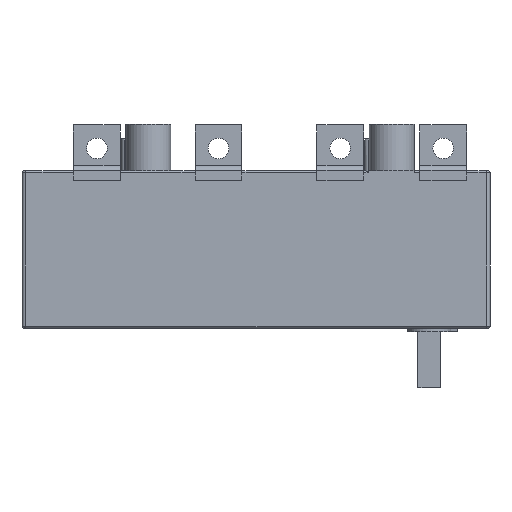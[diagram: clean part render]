
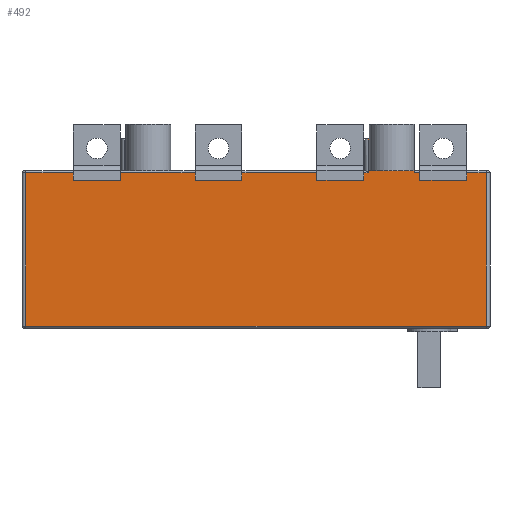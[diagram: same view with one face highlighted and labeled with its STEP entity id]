
A CAD part, front view. The second image highlights one B-rep face of the part: STEP entity #492.
In plain terms, the highlighted planar face has unit normal (0, -1, 0).
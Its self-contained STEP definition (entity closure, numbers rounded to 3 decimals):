
#182=FACE_OUTER_BOUND('',#1705,.T.);
#492=ADVANCED_FACE('',(#182),#604,.T.);
#604=PLANE('',#4333);
#605=LINE('',#5513,#933);
#612=LINE('',#5534,#940);
#614=LINE('',#5537,#942);
#632=LINE('',#5595,#960);
#639=LINE('',#5613,#967);
#641=LINE('',#5619,#969);
#659=LINE('',#5677,#987);
#666=LINE('',#5695,#994);
#668=LINE('',#5704,#996);
#686=LINE('',#5759,#1014);
#693=LINE('',#5777,#1021);
#695=LINE('',#5786,#1023);
#812=LINE('',#6227,#1140);
#820=LINE('',#6317,#1148);
#825=LINE('',#6334,#1153);
#826=LINE('',#6336,#1154);
#850=LINE('',#6462,#1178);
#857=LINE('',#6511,#1185);
#889=LINE('',#6611,#1217);
#895=LINE('',#6623,#1223);
#905=LINE('',#6643,#1233);
#924=LINE('',#6684,#1252);
#926=LINE('',#6688,#1254);
#929=LINE('',#6694,#1257);
#930=LINE('',#6696,#1258);
#932=LINE('',#6700,#1260);
#933=VECTOR('',#4342,1.);
#940=VECTOR('',#4359,1.);
#942=VECTOR('',#4363,1.);
#960=VECTOR('',#4419,1.);
#967=VECTOR('',#4434,1.);
#969=VECTOR('',#4440,1.);
#987=VECTOR('',#4496,1.);
#994=VECTOR('',#4511,1.);
#996=VECTOR('',#4519,1.);
#1014=VECTOR('',#4573,1.);
#1021=VECTOR('',#4588,1.);
#1023=VECTOR('',#4596,1.);
#1140=VECTOR('',#5035,1.);
#1148=VECTOR('',#5099,1.);
#1153=VECTOR('',#5122,1.);
#1154=VECTOR('',#5125,1.);
#1178=VECTOR('',#5265,1.);
#1185=VECTOR('',#5286,1.);
#1217=VECTOR('',#5386,1.);
#1223=VECTOR('',#5398,1.);
#1233=VECTOR('',#5420,1.);
#1252=VECTOR('',#5475,1.);
#1254=VECTOR('',#5481,1.);
#1257=VECTOR('',#5490,1.);
#1258=VECTOR('',#5493,1.);
#1260=VECTOR('',#5499,1.);
#1705=EDGE_LOOP('',(#2754,#2755,#2756,#2757,#2758,#2759,#2760,#2761,#2762,
#2763,#2764,#2765,#2766,#2767,#2768,#2769,#2770,#2771,#2772,#2773,#2774,
#2775,#2776,#2777,#2778,#2779));
#2754=ORIENTED_EDGE('',*,*,#3178,.F.);
#2755=ORIENTED_EDGE('',*,*,#3167,.T.);
#2756=ORIENTED_EDGE('',*,*,#3176,.F.);
#2757=ORIENTED_EDGE('',*,*,#3498,.T.);
#2758=ORIENTED_EDGE('',*,*,#3663,.T.);
#2759=ORIENTED_EDGE('',*,*,#3656,.F.);
#2760=ORIENTED_EDGE('',*,*,#3592,.F.);
#2761=ORIENTED_EDGE('',*,*,#3674,.T.);
#2762=ORIENTED_EDGE('',*,*,#3605,.T.);
#2763=ORIENTED_EDGE('',*,*,#3702,.T.);
#2764=ORIENTED_EDGE('',*,*,#3214,.T.);
#2765=ORIENTED_EDGE('',*,*,#3206,.T.);
#2766=ORIENTED_EDGE('',*,*,#3217,.T.);
#2767=ORIENTED_EDGE('',*,*,#3703,.T.);
#2768=ORIENTED_EDGE('',*,*,#3253,.F.);
#2769=ORIENTED_EDGE('',*,*,#3245,.F.);
#2770=ORIENTED_EDGE('',*,*,#3257,.F.);
#2771=ORIENTED_EDGE('',*,*,#3699,.T.);
#2772=ORIENTED_EDGE('',*,*,#3292,.F.);
#2773=ORIENTED_EDGE('',*,*,#3284,.F.);
#2774=ORIENTED_EDGE('',*,*,#3296,.F.);
#2775=ORIENTED_EDGE('',*,*,#3697,.T.);
#2776=ORIENTED_EDGE('',*,*,#3537,.F.);
#2777=ORIENTED_EDGE('',*,*,#3527,.T.);
#2778=ORIENTED_EDGE('',*,*,#3536,.T.);
#2779=ORIENTED_EDGE('',*,*,#3705,.T.);
#2793=VERTEX_POINT('',#5514);
#2794=VERTEX_POINT('',#5515);
#2801=VERTEX_POINT('',#5533);
#2802=VERTEX_POINT('',#5538);
#2823=VERTEX_POINT('',#5596);
#2824=VERTEX_POINT('',#5597);
#2830=VERTEX_POINT('',#5614);
#2832=VERTEX_POINT('',#5620);
#2853=VERTEX_POINT('',#5678);
#2854=VERTEX_POINT('',#5679);
#2860=VERTEX_POINT('',#5696);
#2863=VERTEX_POINT('',#5703);
#2883=VERTEX_POINT('',#5760);
#2884=VERTEX_POINT('',#5761);
#2890=VERTEX_POINT('',#5778);
#2893=VERTEX_POINT('',#5785);
#3038=VERTEX_POINT('',#6204);
#3040=VERTEX_POINT('',#6226);
#3047=VERTEX_POINT('',#6245);
#3057=VERTEX_POINT('',#6272);
#3061=VERTEX_POINT('',#6314);
#3109=VERTEX_POINT('',#6461);
#3110=VERTEX_POINT('',#6463);
#3117=VERTEX_POINT('',#6493);
#3120=VERTEX_POINT('',#6510);
#3155=VERTEX_POINT('',#6612);
#3167=EDGE_CURVE('',#2793,#2794,#605,.T.);
#3176=EDGE_CURVE('',#2801,#2794,#612,.T.);
#3178=EDGE_CURVE('',#2793,#2802,#614,.T.);
#3206=EDGE_CURVE('',#2823,#2824,#632,.T.);
#3214=EDGE_CURVE('',#2830,#2823,#639,.T.);
#3217=EDGE_CURVE('',#2824,#2832,#641,.T.);
#3245=EDGE_CURVE('',#2853,#2854,#659,.T.);
#3253=EDGE_CURVE('',#2854,#2860,#666,.T.);
#3257=EDGE_CURVE('',#2863,#2853,#668,.T.);
#3284=EDGE_CURVE('',#2883,#2884,#686,.T.);
#3292=EDGE_CURVE('',#2884,#2890,#693,.T.);
#3296=EDGE_CURVE('',#2893,#2883,#695,.T.);
#3498=EDGE_CURVE('',#2801,#3040,#812,.T.);
#3527=EDGE_CURVE('',#3061,#3057,#820,.T.);
#3536=EDGE_CURVE('',#3057,#3038,#825,.T.);
#3537=EDGE_CURVE('',#3061,#3047,#826,.T.);
#3592=EDGE_CURVE('',#3109,#3110,#850,.T.);
#3605=EDGE_CURVE('',#3117,#3120,#857,.T.);
#3656=EDGE_CURVE('',#3110,#3155,#889,.T.);
#3663=EDGE_CURVE('',#3040,#3155,#895,.T.);
#3674=EDGE_CURVE('',#3109,#3117,#905,.T.);
#3697=EDGE_CURVE('',#2893,#3047,#924,.T.);
#3699=EDGE_CURVE('',#2863,#2890,#926,.T.);
#3702=EDGE_CURVE('',#3120,#2830,#929,.T.);
#3703=EDGE_CURVE('',#2832,#2860,#930,.T.);
#3705=EDGE_CURVE('',#3038,#2802,#932,.T.);
#4333=AXIS2_PLACEMENT_3D('',#6701,#5500,#5501);
#4342=DIRECTION('',(-1.,0.,0.));
#4359=DIRECTION('',(0.,0.,-1.));
#4363=DIRECTION('',(0.,0.,1.));
#4419=DIRECTION('',(-1.,0.,0.));
#4434=DIRECTION('',(0.,0.,-1.));
#4440=DIRECTION('',(0.,0.,1.));
#4496=DIRECTION('',(1.,0.,0.));
#4511=DIRECTION('',(0.,0.,1.));
#4519=DIRECTION('',(0.,0.,-1.));
#4573=DIRECTION('',(1.,0.,0.));
#4588=DIRECTION('',(0.,0.,1.));
#4596=DIRECTION('',(0.,0.,-1.));
#5035=DIRECTION('',(-1.,0.,0.));
#5099=DIRECTION('',(1.,0.,0.));
#5122=DIRECTION('',(0.,0.,1.));
#5125=DIRECTION('',(0.,0.,1.));
#5265=DIRECTION('',(0.,0.,-1.));
#5286=DIRECTION('',(0.,0.,-1.));
#5386=DIRECTION('',(1.,0.,0.));
#5398=DIRECTION('',(0.,0.,1.));
#5420=DIRECTION('',(-1.,0.,0.));
#5475=DIRECTION('',(-1.,0.,0.));
#5481=DIRECTION('',(-1.,0.,0.));
#5490=DIRECTION('',(-1.,0.,0.));
#5493=DIRECTION('',(-1.,0.,0.));
#5499=DIRECTION('',(-1.,0.,0.));
#5500=DIRECTION('',(0.,-1.,0.));
#5501=DIRECTION('',(1.,0.,0.));
#5513=CARTESIAN_POINT('',(-12.,-52.5,-5.));
#5514=CARTESIAN_POINT('',(40.,-52.5,-5.));
#5515=CARTESIAN_POINT('',(15.,-52.5,-5.));
#5533=CARTESIAN_POINT('',(15.,-52.5,-1.));
#5534=CARTESIAN_POINT('',(15.,-52.5,4.));
#5537=CARTESIAN_POINT('',(40.,-52.5,4.));
#5538=CARTESIAN_POINT('',(40.,-52.5,-1.));
#5595=CARTESIAN_POINT('',(-12.,-52.5,-5.));
#5596=CARTESIAN_POINT('',(-15.,-52.5,-5.));
#5597=CARTESIAN_POINT('',(-40.,-52.5,-5.));
#5613=CARTESIAN_POINT('',(-15.,-52.5,4.));
#5614=CARTESIAN_POINT('',(-15.,-52.5,-1.));
#5619=CARTESIAN_POINT('',(-40.,-52.5,4.));
#5620=CARTESIAN_POINT('',(-40.,-52.5,-1.));
#5677=CARTESIAN_POINT('',(-12.,-52.5,-5.));
#5678=CARTESIAN_POINT('',(-105.,-52.5,-5.));
#5679=CARTESIAN_POINT('',(-80.,-52.5,-5.));
#5695=CARTESIAN_POINT('',(-80.,-52.5,4.));
#5696=CARTESIAN_POINT('',(-80.,-52.5,-1.));
#5703=CARTESIAN_POINT('',(-105.,-52.5,-1.));
#5704=CARTESIAN_POINT('',(-105.,-52.5,4.));
#5759=CARTESIAN_POINT('',(-12.,-52.5,-5.));
#5760=CARTESIAN_POINT('',(-170.,-52.5,-5.));
#5761=CARTESIAN_POINT('',(-145.,-52.5,-5.));
#5777=CARTESIAN_POINT('',(-145.,-52.5,4.));
#5778=CARTESIAN_POINT('',(-145.,-52.5,-1.));
#5785=CARTESIAN_POINT('',(-170.,-52.5,-1.));
#5786=CARTESIAN_POINT('',(-170.,-52.5,4.));
#6204=CARTESIAN_POINT('',(50.5,-52.5,-1.));
#6226=CARTESIAN_POINT('',(12.,-52.5,-1.));
#6227=CARTESIAN_POINT('',(12.,-52.5,-1.));
#6245=CARTESIAN_POINT('',(-195.5,-52.5,-1.));
#6272=CARTESIAN_POINT('',(50.5,-52.5,-83.));
#6314=CARTESIAN_POINT('',(-195.5,-52.5,-83.));
#6317=CARTESIAN_POINT('',(-12.,-52.5,-83.));
#6334=CARTESIAN_POINT('',(50.5,-52.5,-84.));
#6336=CARTESIAN_POINT('',(-195.5,-52.5,-84.));
#6461=CARTESIAN_POINT('',(-12.,-52.5,17.));
#6462=CARTESIAN_POINT('',(-12.,-52.5,25.));
#6463=CARTESIAN_POINT('',(-12.,-52.5,0.));
#6493=CARTESIAN_POINT('',(-12.5,-52.5,17.));
#6510=CARTESIAN_POINT('',(-12.5,-52.5,-1.));
#6511=CARTESIAN_POINT('',(-12.5,-52.5,4.));
#6611=CARTESIAN_POINT('',(50.5,-52.5,0.));
#6612=CARTESIAN_POINT('',(12.,-52.5,0.));
#6623=CARTESIAN_POINT('',(12.,-52.5,4.));
#6643=CARTESIAN_POINT('',(7.5,-52.5,17.));
#6684=CARTESIAN_POINT('',(-195.5,-52.5,-1.));
#6688=CARTESIAN_POINT('',(-195.5,-52.5,-1.));
#6694=CARTESIAN_POINT('',(-195.5,-52.5,-1.));
#6696=CARTESIAN_POINT('',(-195.5,-52.5,-1.));
#6700=CARTESIAN_POINT('',(12.,-52.5,-1.));
#6701=CARTESIAN_POINT('',(-12.,-52.5,4.));
